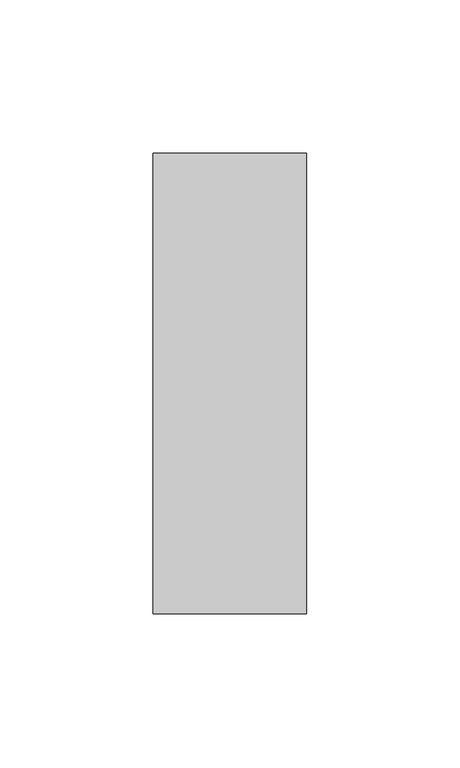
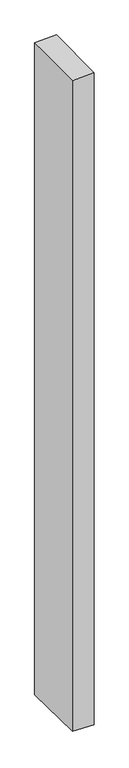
"""IFC4 building model written with IfcOpenShell, lengths in millimetres: member geometry, Прямоугольный импост : 50 x 150 мм."""

import ifcopenshell
import ifcopenshell.guid

model = None  # the IFC model being written
_history = None  # IfcOwnerHistory: only IFC2X3 demands one
_inside = {}  # id of a spatial element -> (the spatial element, [elements in it])
_under = {}  # id of a project, library or spatial element -> (it, [spatial elements below it])
_declared = {}  # id of a project -> (the project, [libraries it declares])
_typed = {}  # id of a type object -> (the type object, [elements of that type])
_made_of = {}  # id of a material, layer set ... -> (it, [elements and type objects made of it])


def new_model(schema):
    """Start an empty IFC model of exactly this schema.

    Asked for "IFC4X3", IfcOpenShell would pick the latest addendum, in which some entities
    have other attributes; the version numbers below select the first issue.
    IFC2X3 requires an IfcOwnerHistory on every rooted entity: one is made here for all.
    """
    global model, _history
    if schema == "IFC4X3":
        model = ifcopenshell.file(schema_version=(4, 3, 0, 0))
    else:
        model = ifcopenshell.file(schema=schema)
    _inside.clear()
    _under.clear()
    _declared.clear()
    _typed.clear()
    _made_of.clear()
    _history = None
    if model.schema == "IFC2X3":
        org = make("IfcOrganization", Name="unknown")
        user = make(
            "IfcPersonAndOrganization",
            ThePerson=make("IfcPerson", FamilyName="unknown"),
            TheOrganization=org,
        )
        app = make(
            "IfcApplication",
            ApplicationDeveloper=org,
            Version="unknown",
            ApplicationFullName="unknown",
            ApplicationIdentifier="unknown",
        )
        _history = make(
            "IfcOwnerHistory",
            OwningUser=user,
            OwningApplication=app,
            ChangeAction="ADDED",
            CreationDate=0,
        )
    return model


def make(cls, **values):
    """One entity of the class cls with the attributes given. An attribute that is None is left unset."""
    return model.create_entity(
        cls, **{name: value for name, value in values.items() if value is not None}
    )


def rooted(cls, **values):
    """An entity with a GlobalId (a new one), such as an element, a storey or a relation."""
    return make(cls, GlobalId=ifcopenshell.guid.new(), OwnerHistory=_history, **values)


def si_unit(unit_type, name, prefix=None):
    """IfcSIUnit, for example si_unit("LENGTHUNIT", "METRE", prefix="MILLI")."""
    return make("IfcSIUnit", UnitType=unit_type, Prefix=prefix, Name=name)


def assignment(units):
    """IfcUnitAssignment: the units of a project."""
    return None if units is None else make("IfcUnitAssignment", Units=units)


def point(xyz):
    """IfcCartesianPoint."""
    return None if xyz is None else make("IfcCartesianPoint", Coordinates=xyz)


def direction(xyz):
    """IfcDirection."""
    return None if xyz is None else make("IfcDirection", DirectionRatios=xyz)


def frame(location, z_axis=None, x_axis=None):
    """IfcAxis2Placement3D, a coordinate frame: its origin and axes. An axis left out is left unset."""
    return make(
        "IfcAxis2Placement3D",
        Location=point(location),
        Axis=direction(z_axis),
        RefDirection=direction(x_axis),
    )


def origin():
    """The frame at (0, 0, 0) with its axes left unset."""
    return frame((0.0, 0.0, 0.0))


def place(relative_to, where):
    """IfcLocalPlacement: puts the frame where relative to a parent placement (None: the world)."""
    return make(
        "IfcLocalPlacement", PlacementRelTo=relative_to, RelativePlacement=where
    )


def context(
    kind, dimensions, precision=None, world=None, true_north=None, identifier=None
):
    """IfcGeometricRepresentationContext, for example the 3D "Model" context."""
    return make(
        "IfcGeometricRepresentationContext",
        ContextIdentifier=identifier,
        ContextType=kind,
        CoordinateSpaceDimension=dimensions,
        Precision=precision,
        WorldCoordinateSystem=world,
        TrueNorth=true_north,
    )


def project(units=None, contexts=None):
    """IfcProject with its units and contexts."""
    return rooted(
        "IfcProject",
        Name="project",
        RepresentationContexts=contexts,
        UnitsInContext=assignment(units),
    )


def spatial(cls, under=None, at=None, **own):
    """A site, building, storey or space (cls), placed at a placement, below another one or the project."""
    s = rooted(cls, ObjectPlacement=at, **own)
    if under is not None:
        _under.setdefault(under.id(), (under, []))[1].append(s)
    return s


def faces_of(points, faces, orient=None, outer=None):
    """IfcFace entities. A face is a list of loops; a loop is a list of indices into points, from 0.

    orient and outer hold one flag for each loop. By default every Orientation is true, the
    first loop of a face is its IfcFaceOuterBound and the others are IfcFaceBound.
    """
    made = []
    for i, loops in enumerate(faces):
        bounds = []
        for j, loop in enumerate(loops):
            is_outer = j == 0 if outer is None else outer[i][j]
            bounds.append(
                make(
                    "IfcFaceOuterBound" if is_outer else "IfcFaceBound",
                    Bound=make("IfcPolyLoop", Polygon=[points[k] for k in loop]),
                    Orientation=True if orient is None else orient[i][j],
                )
            )
        made.append(make("IfcFace", Bounds=bounds))
    return made


def faceted_brep(points, faces, orient=None, outer=None, voids=None):
    """IfcFacetedBrep: a solid bounded by flat faces; with voids (closed shells), ...WithVoids."""
    shared = [point(p) for p in points]
    hull = make("IfcClosedShell", CfsFaces=faces_of(shared, faces, orient, outer))
    if voids is None:
        return make("IfcFacetedBrep", Outer=hull)
    return make(
        "IfcFacetedBrepWithVoids",
        Outer=hull,
        Voids=[
            make(cls, CfsFaces=faces_of(shared, fs, o, b)) for cls, fs, o, b in voids
        ],
    )


def shape(context_of_items, identifier, shape_type, items):
    """IfcShapeRepresentation: the items that make up one representation, for example the "Body"."""
    return make(
        "IfcShapeRepresentation",
        ContextOfItems=context_of_items,
        RepresentationIdentifier=identifier,
        RepresentationType=shape_type,
        Items=items,
    )


def source(mapping_origin, context_of_items, identifier, shape_type, items):
    """IfcRepresentationMap: a shape defined once, which mapped items show again and again."""
    return make(
        "IfcRepresentationMap",
        MappingOrigin=mapping_origin,
        MappedRepresentation=shape(context_of_items, identifier, shape_type, items),
    )


def transform(
    local_origin,
    x_axis=None,
    y_axis=None,
    z_axis=None,
    scale=None,
    scale2=None,
    scale3=None,
    uniform=True,
):
    """IfcCartesianTransformationOperator3D, or its non-uniform kind. x_axis, y_axis, z_axis: its Axis1, 2, 3."""
    if uniform:
        return make(
            "IfcCartesianTransformationOperator3D",
            Axis1=direction(x_axis),
            Axis2=direction(y_axis),
            LocalOrigin=point(local_origin),
            Scale=scale,
            Axis3=direction(z_axis),
        )
    return make(
        "IfcCartesianTransformationOperator3DnonUniform",
        Axis1=direction(x_axis),
        Axis2=direction(y_axis),
        LocalOrigin=point(local_origin),
        Scale=scale,
        Axis3=direction(z_axis),
        Scale2=scale2,
        Scale3=scale3,
    )


def mapped(mapping_source, mapping_target):
    """IfcMappedItem: shows the shape of a source again, moved by a transform."""
    return make(
        "IfcMappedItem", MappingSource=mapping_source, MappingTarget=mapping_target
    )


def made_of(thing, what):
    """Note that an element or type object is made of a material, layer set ...; save() writes the relation."""
    if what is not None:
        _made_of.setdefault(what.id(), (what, []))[1].append(thing)
    return thing


def element(
    cls,
    number,
    at=None,
    inside=None,
    cuts=None,
    type_object=None,
    material=None,
    context=None,
    identifier="Body",
    shape_type=None,
    held_by="IfcProductDefinitionShape",
    body=None,
    shapes=None,
    **own,
):
    """One element of the class cls, such as IfcWall. Its Tag is "e" and its number.

    at: its placement. inside: the storey or other place that contains it. cuts: it is an
    opening in that element (IfcRelVoidsElement). A single representation is given by context,
    identifier, shape_type and body (its items); several are given by shapes. held_by: the class
    of the entity that holds the representations. save() writes the other relations.
    """
    e = rooted(cls, Tag="e%d" % number, ObjectPlacement=at, **own)
    if body is not None:
        shapes = [shape(context, identifier, shape_type, body)]
    if shapes is not None:
        e.Representation = make(held_by, Representations=shapes)
    if inside is not None:
        _inside.setdefault(inside.id(), (inside, []))[1].append(e)
    if cuts is not None:
        rooted(
            "IfcRelVoidsElement", RelatingBuildingElement=cuts, RelatedOpeningElement=e
        )
    if type_object is not None:
        _typed.setdefault(type_object.id(), (type_object, []))[1].append(e)
    return made_of(e, material)


def aggregate(whole, parts):
    """IfcRelAggregates: a whole, such as a stair, and the parts it consists of."""
    return rooted("IfcRelAggregates", RelatingObject=whole, RelatedObjects=parts)


def save(model, path):
    """Write the relations noted so far, then the file.

    IfcRelAggregates (storeys below a building ...), IfcRelContainedInSpatialStructure (elements
    in a storey), IfcRelDefinesByType, IfcRelAssociatesMaterial and IfcRelDeclares: one each for
    every whole, place, type object, material and project.
    """
    for whole, parts in _under.values():
        aggregate(whole, parts)
    for where, things in _inside.values():
        rooted(
            "IfcRelContainedInSpatialStructure",
            RelatedElements=things,
            RelatingStructure=where,
        )
    for kind, things in _typed.values():
        rooted("IfcRelDefinesByType", RelatedObjects=things, RelatingType=kind)
    for what, things in _made_of.values():
        rooted("IfcRelAssociatesMaterial", RelatedObjects=things, RelatingMaterial=what)
    for by, libraries in _declared.values():
        rooted("IfcRelDeclares", RelatingContext=by, RelatedDefinitions=libraries)
    model.write(path)


def member_791e0643(model_context):
    return source(origin(), model_context, "Body", "Brep", [
        faceted_brep([(-25.0, 75.0, -0.2003571), (25.0, 75.0, 1.3891543), (25.0, 75.0, -1587.9512524), (-25.0, 75.0, -1586.1199345), (-25.0, -75.0, -1.3891543), (-25.0, -75.0, -1583.014551), (25.0, -75.0, 0.2003571), (25.0, -75.0, -1584.8458689)], [[[0, 1, 2, 3]], [[4, 0, 3, 5]], [[6, 4, 5, 7]], [[1, 6, 7, 2]], [[1, 0, 4, 6]], [[2, 7, 5, 3]]]),
    ])


if __name__ == "__main__":
    model = new_model("IFC4")
    model_context = context("Model", 3, world=origin())
    ifc_project = project(units=[si_unit("LENGTHUNIT", "METRE", prefix="MILLI")], contexts=[model_context])
    site = spatial("IfcSite", under=ifc_project)
    building = spatial("IfcBuilding", under=site)
    placement = place(None, origin())
    member_shape = member_791e0643(model_context)
    element("IfcMember", 1, ObjectType="Прямоугольный импост : 50 x 150 мм", at=placement, inside=building, context=model_context, shape_type="MappedRepresentation", body=[
        mapped(member_shape, transform((0.0, 0.0, 0.0), x_axis=(1.0, 0.0, 0.0), y_axis=(0.0, 1.0, 0.0), z_axis=(0.0, 0.0, 1.0))),
    ])
    save(model, "model.ifc")
